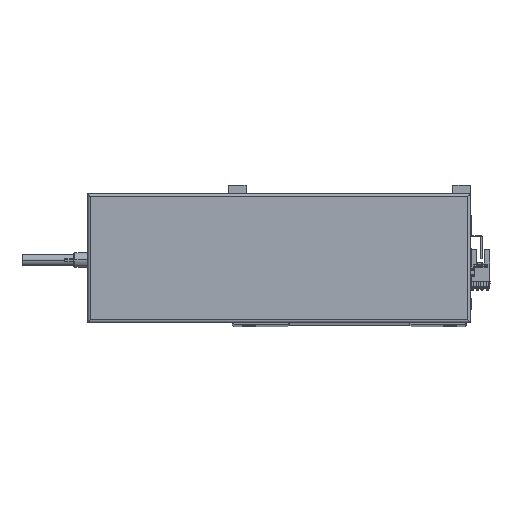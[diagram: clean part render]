
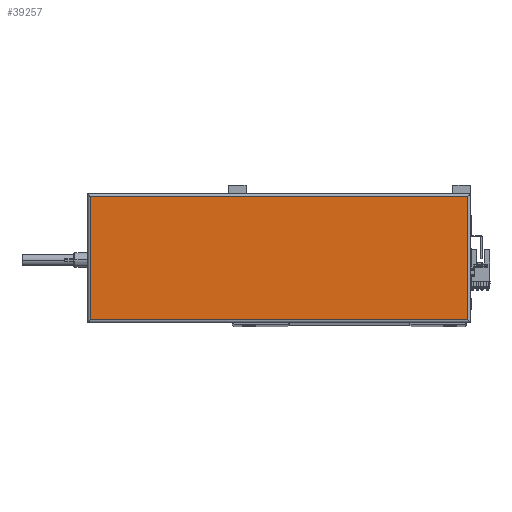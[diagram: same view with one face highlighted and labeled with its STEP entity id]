
A CAD part, top view. The second image highlights one B-rep face of the part: STEP entity #39257.
In plain terms, the highlighted planar face has unit normal (0, 0, 1).
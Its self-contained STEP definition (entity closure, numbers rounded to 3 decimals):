
#358 = ORIENTED_EDGE ( 'NONE', *, *, #18374, .T. ) ;
#959 = PLANE ( 'NONE',  #35178 ) ;
#1317 = DIRECTION ( 'NONE',  ( 0., -1., 0. ) ) ;
#2364 = VERTEX_POINT ( 'NONE', #48957 ) ;
#3768 = VECTOR ( 'NONE', #44235, 1000. ) ;
#5336 = DIRECTION ( 'NONE',  ( 1., 0., 0. ) ) ;
#6584 = ORIENTED_EDGE ( 'NONE', *, *, #23170, .T. ) ;
#8787 = CARTESIAN_POINT ( 'NONE',  ( 2., 0., 44.8 ) ) ;
#10759 = FACE_OUTER_BOUND ( 'NONE', #23375, .T. ) ;
#11704 = CARTESIAN_POINT ( 'NONE',  ( 265., 2., 44.8 ) ) ;
#12461 = CARTESIAN_POINT ( 'NONE',  ( 2., 88., 44.8 ) ) ;
#13201 = DIRECTION ( 'NONE',  ( 0., 1., 0. ) ) ;
#14549 = VERTEX_POINT ( 'NONE', #11704 ) ;
#14796 = LINE ( 'NONE', #46155, #38536 ) ;
#15693 = VERTEX_POINT ( 'NONE', #12461 ) ;
#15756 = ORIENTED_EDGE ( 'NONE', *, *, #37982, .T. ) ;
#18374 = EDGE_CURVE ( 'NONE', #14549, #2364, #18736, .T. ) ;
#18736 = LINE ( 'NONE', #40449, #24996 ) ;
#23170 = EDGE_CURVE ( 'NONE', #2364, #15693, #49321, .T. ) ;
#23375 = EDGE_LOOP ( 'NONE', ( #358, #6584, #15756, #33011 ) ) ;
#23766 = CARTESIAN_POINT ( 'NONE',  ( 0., 88., 44.8 ) ) ;
#24996 = VECTOR ( 'NONE', #13201, 1000. ) ;
#28467 = CARTESIAN_POINT ( 'NONE',  ( 2., 2., 44.8 ) ) ;
#32722 = CARTESIAN_POINT ( 'NONE',  ( 133.5, 45., 44.8 ) ) ;
#32889 = DIRECTION ( 'NONE',  ( 0., 0., 1. ) ) ;
#33011 = ORIENTED_EDGE ( 'NONE', *, *, #43855, .T. ) ;
#35178 = AXIS2_PLACEMENT_3D ( 'NONE', #32722, #32889, #5336 ) ;
#36730 = VERTEX_POINT ( 'NONE', #28467 ) ;
#37982 = EDGE_CURVE ( 'NONE', #15693, #36730, #40182, .T. ) ;
#38536 = VECTOR ( 'NONE', #46659, 1000. ) ;
#39257 = ADVANCED_FACE ( 'NONE', ( #10759 ), #959, .T. ) ;
#40182 = LINE ( 'NONE', #8787, #42084 ) ;
#40449 = CARTESIAN_POINT ( 'NONE',  ( 265., 90., 44.8 ) ) ;
#42084 = VECTOR ( 'NONE', #1317, 1000. ) ;
#43855 = EDGE_CURVE ( 'NONE', #36730, #14549, #14796, .T. ) ;
#44235 = DIRECTION ( 'NONE',  ( -1., 0., 0. ) ) ;
#46155 = CARTESIAN_POINT ( 'NONE',  ( 267., 2., 44.8 ) ) ;
#46659 = DIRECTION ( 'NONE',  ( 1., 0., 0. ) ) ;
#48957 = CARTESIAN_POINT ( 'NONE',  ( 265., 88., 44.8 ) ) ;
#49321 = LINE ( 'NONE', #23766, #3768 ) ;
